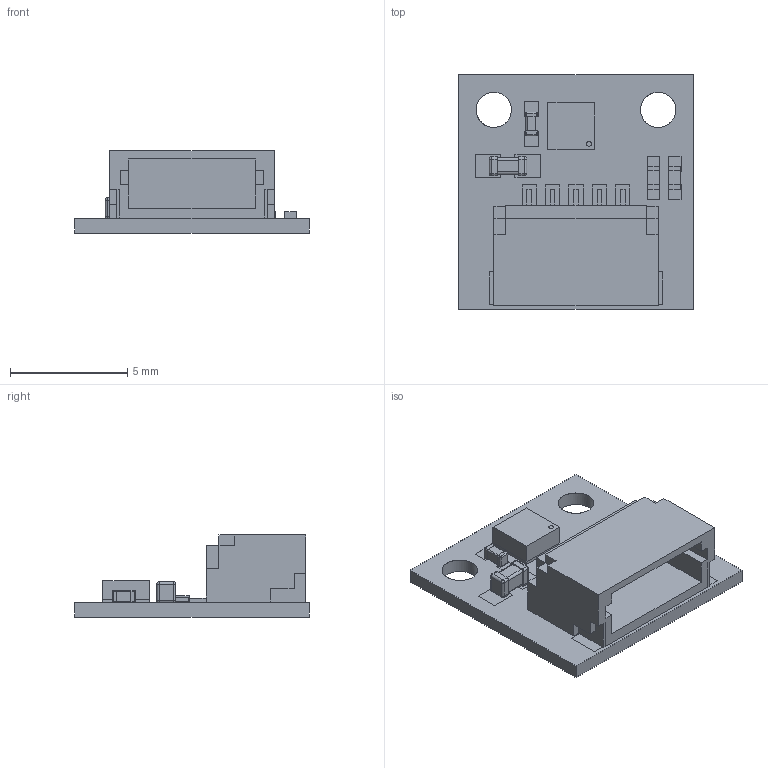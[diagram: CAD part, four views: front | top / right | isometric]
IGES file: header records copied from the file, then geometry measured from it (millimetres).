
Global section: file name: Filename.iges; native system: Open CASCADE 7.4; preprocessor: Open CASCADE IGES processor 7.4; date: 20200723.104112; units: millimetre
Bounding box: 10 x 10 x 3.5 mm (x, y, z)
Surface area: 679.7 mm2 (no closed solid volume)
Topology: 0 solids, 0 shells, 431 faces, 2232 edges, 3104 vertices
Faces by surface type: plane 367, revolution 64
